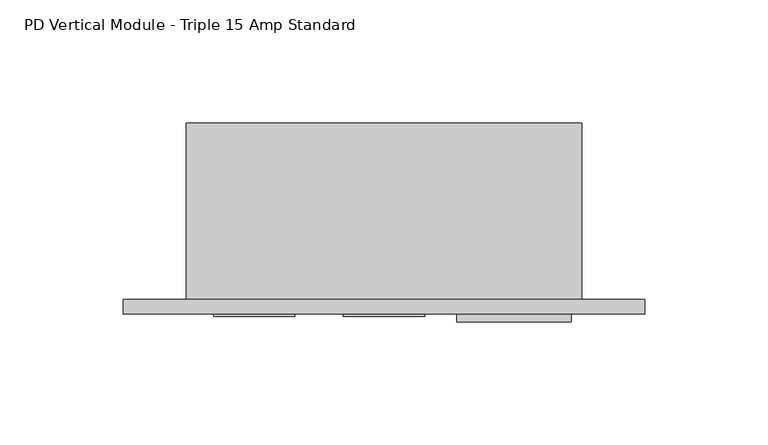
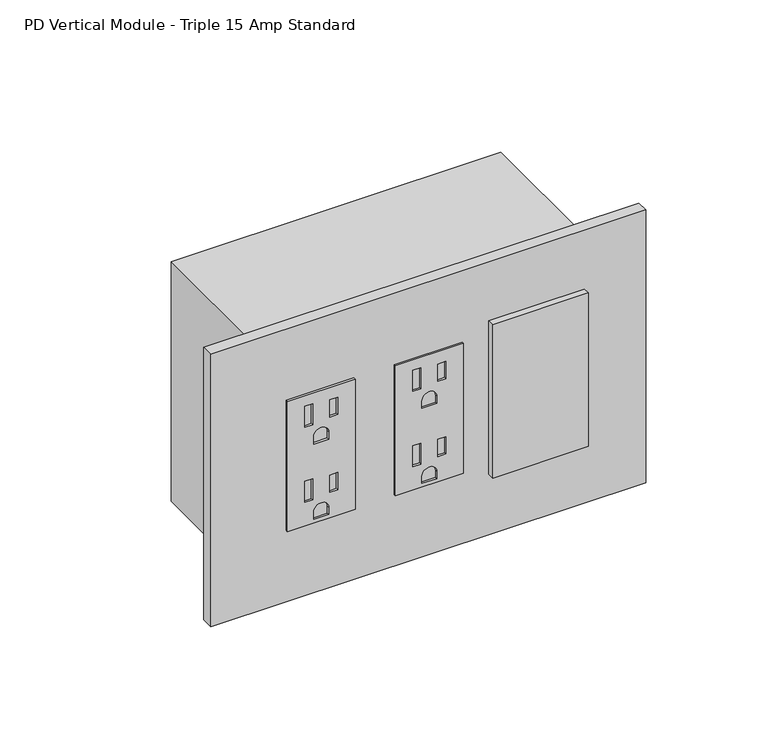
"""IFC4 building model written with IfcOpenShell, lengths in millimetres: proxy geometry, Electrical-Teknion-EPDMT_Vertical_Power_Data_Triple-R2019 : PD Vertical Module - Triple 15 Amp Standard."""

from ifc_helpers import new_model, si_unit, point, frame, frame_2d, origin, place, context, project, spatial, polyline, circle_curve, trimmed, segment, composite_curve, outline, extrude, source, transform, mapped, element, save


def pd_vertical_module_triple_15_amp_standard_a40d858c(model_context):
    return source(origin(), model_context, "Body", "SweptSolid", [
        extrude(outline(polyline([(490.6772, 96.7613), (490.6772, 63.7667), (423.7228, 63.7667), (423.7228, 96.7613), (490.6772, 96.7613)]), holes=[polyline([(485.2924, 76.1111), (474.472, 76.1111), (474.472, 72.2757), (485.2924, 72.2757), (485.2924, 76.1111)]), polyline([(484.3145, 88.2777), (475.4499, 88.2777), (475.4499, 84.4423), (484.3145, 84.4423), (484.3145, 88.2777)]), composite_curve([segment(polyline([(464.2866, 83.8962), (464.2866, 76.6318), (467.9188, 76.6318)]), True, "CONTINUOUS"), segment(trimmed(circle_curve(frame_2d((467.9188, 80.264)), 3.6322), [point((467.9188, 76.6318))], [point((467.9188, 83.8962))], True, "CARTESIAN"), True, "CONTINUOUS"), segment(polyline([(467.9188, 83.8962), (464.2866, 83.8962)]), True, "CONTINUOUS")], self_intersect=False), polyline([(446.5574, 76.1111), (435.737, 76.1111), (435.737, 72.2757), (446.5574, 72.2757), (446.5574, 76.1111)]), polyline([(445.5795, 88.2777), (436.7149, 88.2777), (436.7149, 84.4423), (445.5795, 84.4423), (445.5795, 88.2777)]), composite_curve([segment(polyline([(425.5516, 83.8962), (425.5516, 76.6318), (429.1838, 76.6318)]), True, "CONTINUOUS"), segment(trimmed(circle_curve(frame_2d((429.1838, 80.264)), 3.6322), [point((429.1838, 76.6318))], [point((429.1838, 83.8962))], True, "CARTESIAN"), True, "CONTINUOUS"), segment(polyline([(429.1838, 83.8962), (425.5516, 83.8962)]), True, "CONTINUOUS")], self_intersect=False)]), frame((0.0, -6.9294746, 0.0), z_axis=(0.0, 1.0, 0.0), x_axis=(0.0, 0.0, 1.0)), (0.0, 0.0, 1.0), 1.0366746),
        extrude(outline(polyline([(490.6772, 44.0944), (490.6772, 11.0998), (423.7228, 11.0998), (423.7228, 44.0944), (490.6772, 44.0944)]), holes=[polyline([(485.2924, 23.4442), (474.472, 23.4442), (474.472, 19.6088), (485.2924, 19.6088), (485.2924, 23.4442)]), polyline([(484.3145, 35.6108), (475.4499, 35.6108), (475.4499, 31.7754), (484.3145, 31.7754), (484.3145, 35.6108)]), composite_curve([segment(polyline([(464.2866, 31.2293), (464.2866, 23.9649), (467.9188, 23.9649)]), True, "CONTINUOUS"), segment(trimmed(circle_curve(frame_2d((467.9188, 27.5971)), 3.6322), [point((467.9188, 23.9649))], [point((467.9188, 31.2293))], True, "CARTESIAN"), True, "CONTINUOUS"), segment(polyline([(467.9188, 31.2293), (464.2866, 31.2293)]), True, "CONTINUOUS")], self_intersect=False), polyline([(446.5574, 23.4442), (435.737, 23.4442), (435.737, 19.6088), (446.5574, 19.6088), (446.5574, 23.4442)]), polyline([(445.5795, 35.6108), (436.7149, 35.6108), (436.7149, 31.7754), (445.5795, 31.7754), (445.5795, 35.6108)]), composite_curve([segment(polyline([(425.5516, 31.2293), (425.5516, 23.9649), (429.1838, 23.9649)]), True, "CONTINUOUS"), segment(trimmed(circle_curve(frame_2d((429.1838, 27.5971)), 3.6322), [point((429.1838, 23.9649))], [point((429.1838, 31.2293))], True, "CARTESIAN"), True, "CONTINUOUS"), segment(polyline([(429.1838, 31.2293), (425.5516, 31.2293)]), True, "CONTINUOUS")], self_intersect=False)]), frame((0.0, -6.9294746, 0.0), z_axis=(0.0, 1.0, 0.0), x_axis=(0.0, 0.0, 1.0)), (0.0, 0.0, 1.0), 1.0366746),
        extrude(outline(polyline([(109.8296, -5.8928), (156.3624, -5.8928), (156.3624, -9.0678), (109.8296, -9.0678), (109.8296, -5.8928)])), frame((0.0, 0.0, 417.9922742), z_axis=(0.0, 0.0, 1.0), x_axis=(1.0, 0.0, 0.0)), (0.0, 0.0, 1.0), 79.0448),
        extrude(outline(polyline([(-25.6794, 0.0), (186.2074, 0.0), (186.2074, -5.8928), (-25.6794, -5.8928), (-25.6794, 0.0)])), frame((0.0, 0.0, 387.0198), z_axis=(0.0, 0.0, 1.0), x_axis=(1.0, 0.0, 0.0)), (0.0, 0.0, 1.0), 140.3604),
        extrude(outline(polyline([(160.528, 0.0), (0.0, 0.0), (0.0, 71.7296), (160.528, 71.7296), (160.528, 0.0)])), frame((0.0, 0.0, 395.4526), z_axis=(0.0, 0.0, 1.0), x_axis=(1.0, 0.0, 0.0)), (0.0, 0.0, 1.0), 123.4948),
    ])


if __name__ == "__main__":
    model = new_model("IFC4")
    model_context = context("Model", 3, world=origin())
    ifc_project = project(units=[si_unit("LENGTHUNIT", "METRE", prefix="MILLI")], contexts=[model_context])
    site = spatial("IfcSite", under=ifc_project)
    building = spatial("IfcBuilding", under=site)
    placement = place(None, origin())
    pd_vertical_module_triple_15_amp_standard_shape = pd_vertical_module_triple_15_amp_standard_a40d858c(model_context)
    element("IfcBuildingElementProxy", 1, Name="Electrical-Teknion-EPDMT_Vertical_Power_Data_Triple-R2019 : PD Vertical Module - Triple 15 Amp Standard", ObjectType="Electrical-Teknion-EPDMT_Vertical_Power_Data_Triple-R2019 : PD Vertical Module - Triple 15 Amp Standard", at=placement, inside=building, context=model_context, shape_type="MappedRepresentation", body=[
        mapped(pd_vertical_module_triple_15_amp_standard_shape, transform((0.0, 0.0, 0.0), x_axis=(1.0, 0.0, 0.0), y_axis=(0.0, 1.0, 0.0), z_axis=(0.0, 0.0, 1.0))),
    ])
    save(model, "model.ifc")
